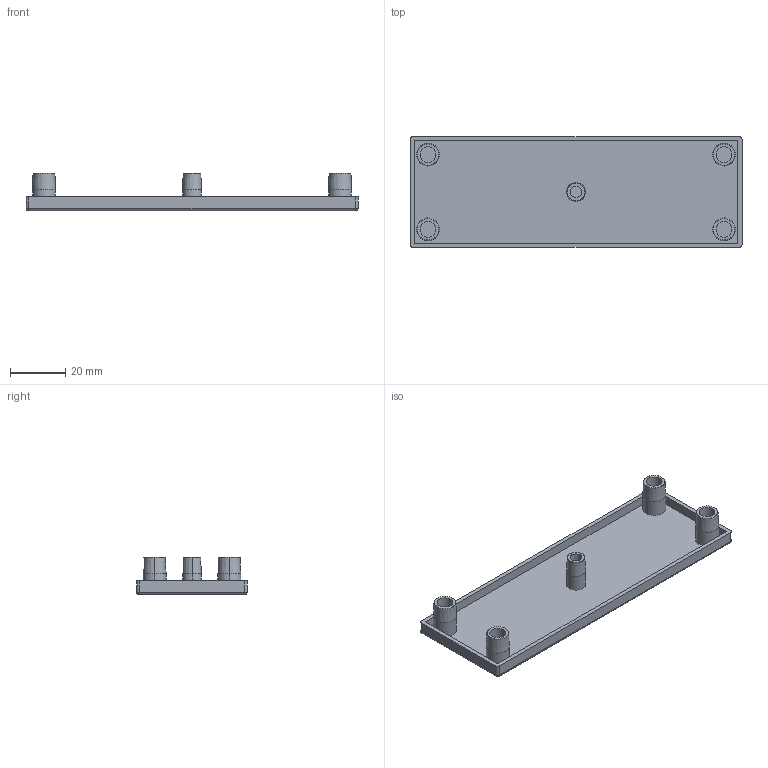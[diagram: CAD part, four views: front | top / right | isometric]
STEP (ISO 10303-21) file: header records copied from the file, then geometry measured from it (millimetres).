
FILE_DESCRIPTION (( 'STEP AP203' ), '1' );
FILE_NAME ('DEC40120.STEP', '2022-06-24T02:37:45', ( '' ), ( '' ), 'SwSTEP 2.0', 'SolidWorks 2017', '' );
FILE_SCHEMA (( 'CONFIG_CONTROL_DESIGN' ));
Length unit declared in the file: millimetre
Products named in the file (1): DEC40120
Bounding box: 120 x 40 x 13.6 mm (x, y, z)
Volume: 10357.3 mm3; surface area: 14629.8 mm2
Topology: 1 solids, 1 shells, 73 faces, 152 edges, 88 vertices
Faces by surface type: cylinder 28, plane 21, torus 10, cone 10, sphere 4
Entity records: 1989 total; most frequent: DIRECTION 382, CARTESIAN_POINT 310, ORIENTED_EDGE 296, AXIS2_PLACEMENT_3D 160, EDGE_CURVE 148, VERTEX_POINT 88, CIRCLE 86, EDGE_LOOP 84
